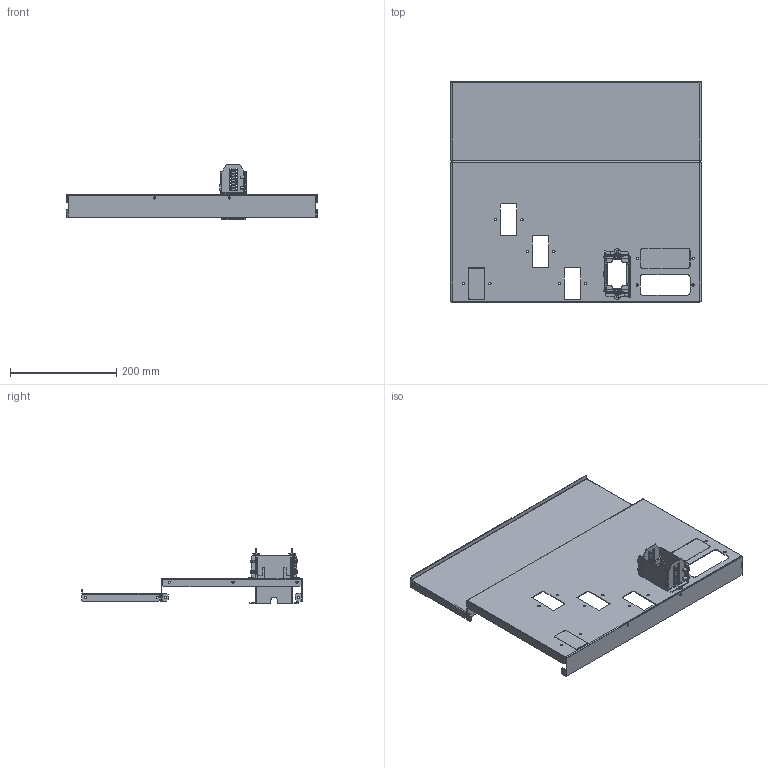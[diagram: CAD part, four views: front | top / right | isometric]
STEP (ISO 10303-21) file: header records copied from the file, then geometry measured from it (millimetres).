
FILE_DESCRIPTION(('CAx-IF Rec.Pracs.---Model Styling and Organization---1.2---2011-12-15','CAx-IF Rec.Pracs.---Geometric and Assembly Validation Properties---4.1---2014-06-16','CAx-IF Rec.Pracs.---PMI Polyline Presentation---2.0---2013-05-24'),'2;1');
FILE_NAME('R5M2W9M1BR61.stp','2021-05-05T12:37:40+03:00',(''),(''),'STEP Interface 4.4 by CT CoreTechnologie','3D_Evolution4.4 by CT CoreTechnologie','');
FILE_SCHEMA(('AUTOMOTIVE_DESIGN { 1 0 10303 214 1 1 1 1 }'));
Length unit declared in the file: millimetre
Products named in the file (9): R5M2W9M1BR61; RB.1567.00.00.0_-00; RB.1765.00.00.0 ÑÁ; RB.1570.00.00.0; RB.1569.00.00.1_-00; RB.1571.00.00.0_In prestressed condition - 40 mm; M5x8-DIN7500C_stright; RB.1506.00.00.0_-06; RB.1507.00.00.0_-02
Assembly tree (14 placements, depth 3):
  R5M2W9M1BR61
    RB.1567.00.00.0_-00
    RB.1765.00.00.0 ÑÁ
      RB.1570.00.00.0  x2
      RB.1569.00.00.1_-00  x2
      RB.1571.00.00.0_In prestressed condition - 40 mm  x2
      M5x8-DIN7500C_stright  x4
    RB.1506.00.00.0_-06
    RB.1507.00.00.0_-02
Bounding box: 470 x 414.2 x 103.8 mm (x, y, z)
Surface area: 554153.1 mm2 (no closed solid volume)
Topology: 0 solids, 22 shells, 758 faces, 2001 edges, 1287 vertices
Faces by surface type: plane 504, cylinder 224, bspline 30
Entity records: 19791 total; most frequent: CARTESIAN_POINT 4693, ORIENTED_EDGE 3022, DIRECTION 3005, EDGE_CURVE 1511, VECTOR 1123, LINE 1123, VERTEX_POINT 969, AXIS2_PLACEMENT_3D 941
